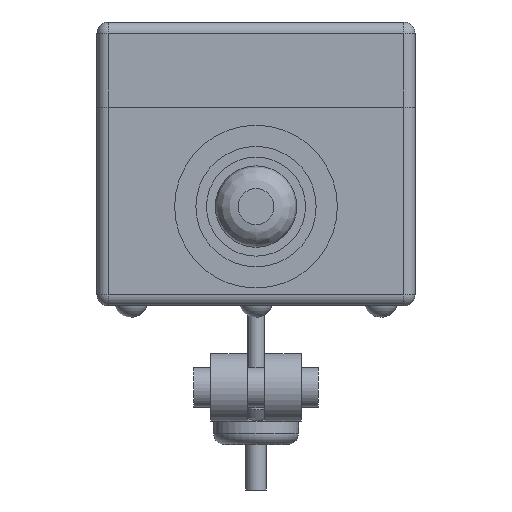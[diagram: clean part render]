
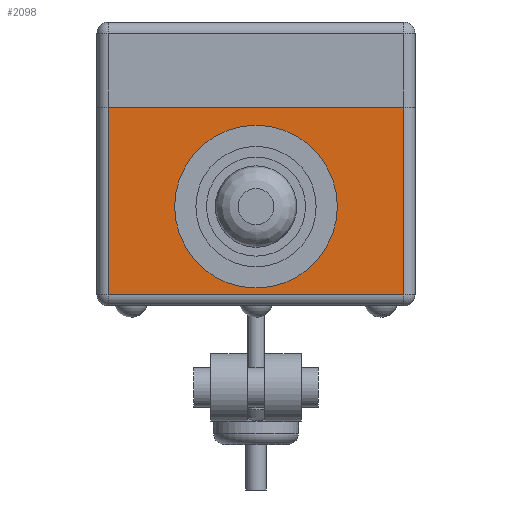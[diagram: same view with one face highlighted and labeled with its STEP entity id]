
A CAD part, front view. The second image highlights one B-rep face of the part: STEP entity #2098.
In plain terms, the highlighted planar face has unit normal (0, -1, 0).
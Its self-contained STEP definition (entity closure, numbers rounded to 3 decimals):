
#110=PLANE('',#2306);
#201=LINE('',#3355,#351);
#205=LINE('',#3364,#355);
#208=LINE('',#3371,#358);
#225=LINE('',#3424,#375);
#351=VECTOR('',#2666,10.);
#355=VECTOR('',#2676,10.);
#358=VECTOR('',#2683,10.);
#375=VECTOR('',#2740,10.);
#577=FACE_OUTER_BOUND('',#744,.T.);
#744=EDGE_LOOP('',(#1665,#1666,#1667,#1668));
#1039=VERTEX_POINT('',#3327);
#1047=VERTEX_POINT('',#3348);
#1051=VERTEX_POINT('',#3362);
#1052=VERTEX_POINT('',#3367);
#1260=EDGE_CURVE('',#1047,#1039,#201,.T.);
#1265=EDGE_CURVE('',#1051,#1047,#205,.T.);
#1269=EDGE_CURVE('',#1039,#1052,#208,.T.);
#1293=EDGE_CURVE('',#1052,#1051,#225,.T.);
#1665=ORIENTED_EDGE('',*,*,#1265,.F.);
#1666=ORIENTED_EDGE('',*,*,#1293,.F.);
#1667=ORIENTED_EDGE('',*,*,#1269,.F.);
#1668=ORIENTED_EDGE('',*,*,#1260,.F.);
#2098=ADVANCED_FACE('',(#577),#110,.T.);
#2306=AXIS2_PLACEMENT_3D('',#3423,#2738,#2739);
#2666=DIRECTION('',(-1.,0.,0.));
#2676=DIRECTION('',(0.,0.,-1.));
#2683=DIRECTION('',(0.,0.,1.));
#2738=DIRECTION('center_axis',(0.,-1.,0.));
#2739=DIRECTION('ref_axis',(0.,0.,-1.));
#2740=DIRECTION('',(1.,0.,0.));
#3327=CARTESIAN_POINT('',(1.,6.,1.));
#3348=CARTESIAN_POINT('',(27.,6.,1.));
#3355=CARTESIAN_POINT('',(0.,6.,1.));
#3362=CARTESIAN_POINT('',(27.,6.,17.5));
#3364=CARTESIAN_POINT('',(27.,6.,11.795));
#3367=CARTESIAN_POINT('',(1.,6.,17.5));
#3371=CARTESIAN_POINT('',(1.,6.,11.795));
#3423=CARTESIAN_POINT('Origin',(0.,6.,17.5));
#3424=CARTESIAN_POINT('',(0.,6.,17.5));
